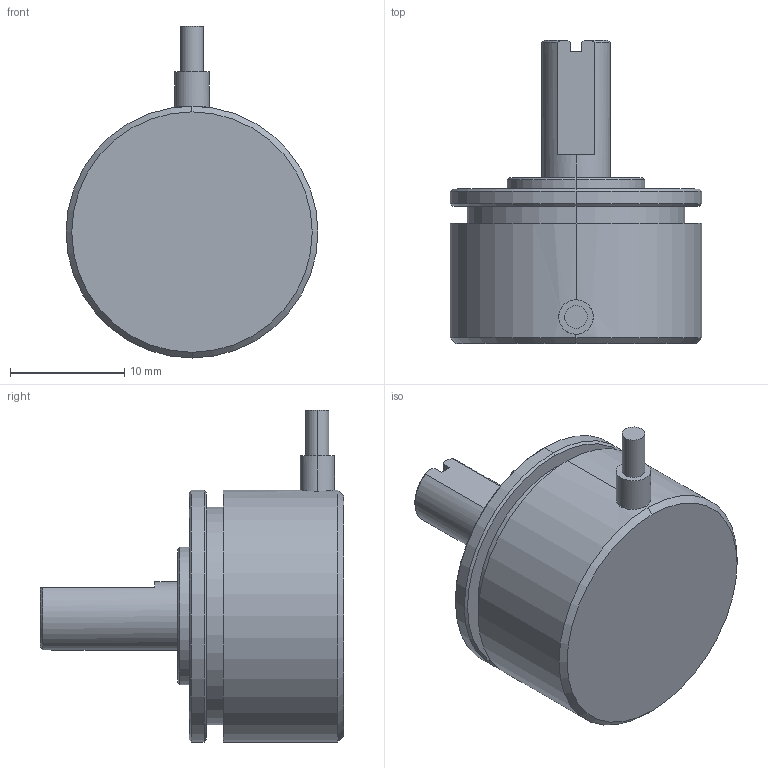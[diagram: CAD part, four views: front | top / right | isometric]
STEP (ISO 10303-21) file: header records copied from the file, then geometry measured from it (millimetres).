
FILE_DESCRIPTION (( 'STEP AP203' ), '1' );
FILE_NAME ('LMME-22（V1.02）微型编码器（无安装板）_defeature.STEP', '2025-05-26T10:58:54', ( '' ), ( '' ), 'SwSTEP 2.0', 'SolidWorks 2024', '' );
FILE_SCHEMA (( 'CONFIG_CONTROL_DESIGN' ));
Length unit declared in the file: millimetre
Products named in the file (1): LMME-22（V1.02）微型编码器（无安装板）_defeature
Bounding box: 22 x 26.5 x 29 mm (x, y, z)
Volume: 5328.5 mm3; surface area: 2505.7 mm2
Topology: 1 solids, 2 shells, 97 faces, 201 edges, 122 vertices
Faces by surface type: cylinder 58, plane 27, cone 12
Entity records: 2696 total; most frequent: DIRECTION 495, CARTESIAN_POINT 485, ORIENTED_EDGE 402, AXIS2_PLACEMENT_3D 204, EDGE_CURVE 201, VERTEX_POINT 122, EDGE_LOOP 111, CIRCLE 106
